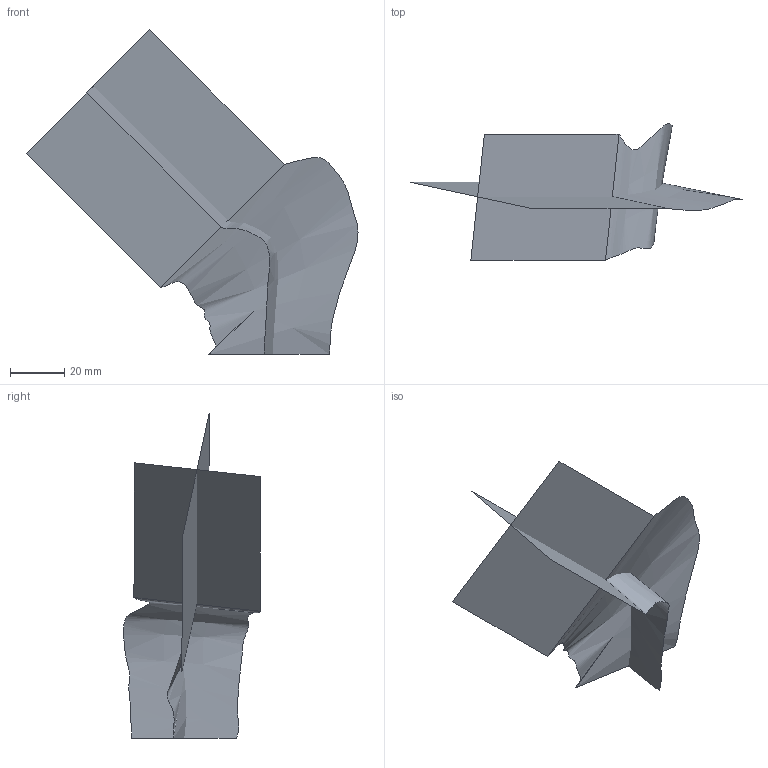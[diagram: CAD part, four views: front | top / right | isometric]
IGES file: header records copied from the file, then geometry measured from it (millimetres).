
Global section: file name: curve2_3.igs; native system: Unigraphics Version 15.0; preprocessor: UG/IGES Version 15.0; date: 990826.095756; units: millimetre
Bounding box: 122.03 x 50.43 x 119.31 mm (x, y, z)
Surface area: 27551.1 mm2 (no closed solid volume)
Topology: 0 solids, 0 shells, 8 faces, 1539 edges, 3255 vertices
Faces by surface type: bspline 8
